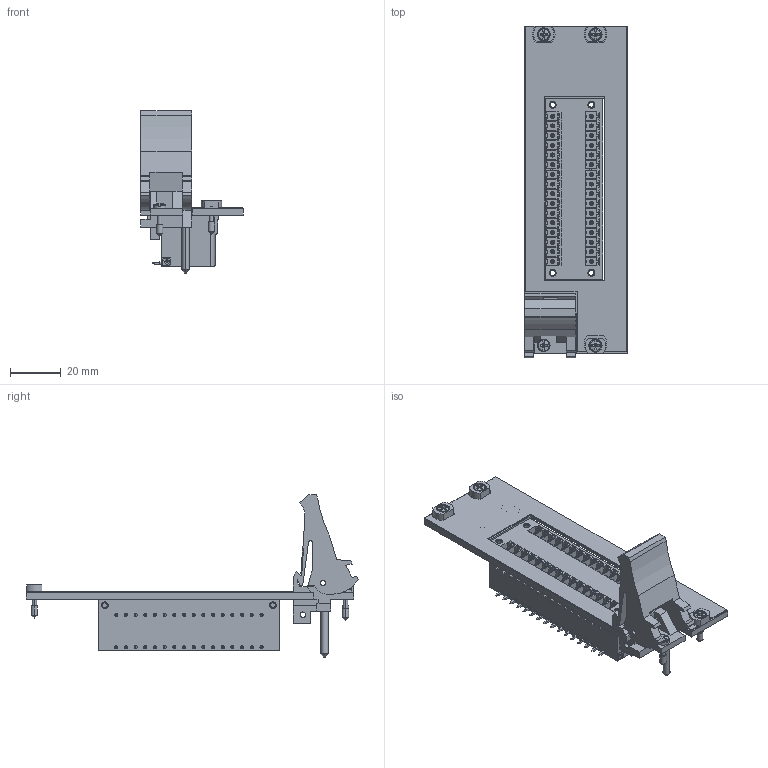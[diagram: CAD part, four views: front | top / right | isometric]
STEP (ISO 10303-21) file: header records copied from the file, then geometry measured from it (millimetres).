
FILE_DESCRIPTION((''),'2;1');
FILE_NAME('CU_PXI-2565','2009-12-31T',('jjorden'),(''),'PRO/ENGINEER BY PARAMETRIC TECHNOLOGY CORPORATION, 2006080','PRO/ENGINEER BY PARAMETRIC TECHNOLOGY CORPORATION, 2006080','');
FILE_SCHEMA(('CONFIG_CONTROL_DESIGN'));
Products named in the file (1): CU_PXI-2565
Bounding box: 40.34 x 130.6 x 63.73 mm (x, y, z)
Volume: 46894.5 mm3; surface area: 28412.3 mm2
Topology: 1 solids, 1 shells, 2536 faces, 6263 edges, 3965 vertices
Faces by surface type: plane 2061, cylinder 389, cone 54, sphere 24, torus 8
Entity records: 77512 total; most frequent: CARTESIAN_POINT 17359, ORIENTED_EDGE 12510, DIRECTION 11948, EDGE_CURVE 6255, VECTOR 5028, LINE 5028, VERTEX_POINT 3965, AXIS2_PLACEMENT_3D 3460
